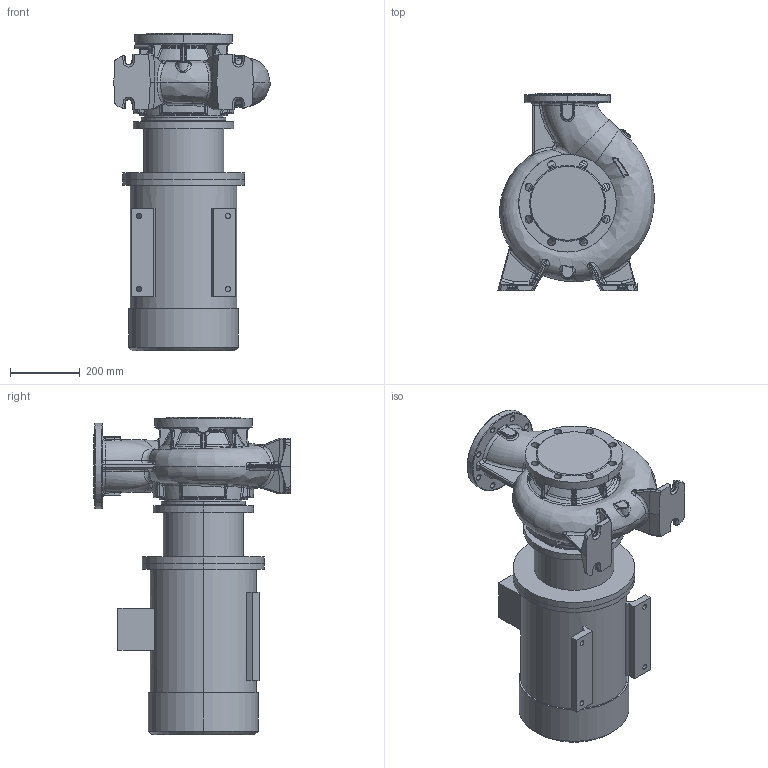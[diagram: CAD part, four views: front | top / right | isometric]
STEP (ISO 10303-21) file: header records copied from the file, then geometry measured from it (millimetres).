
FILE_DESCRIPTION (( 'STEP AP214' ), '1' );
FILE_NAME ('KRM 150-125-200-4-11.STEP', '2026-04-20T07:23:42', ( '' ), ( '' ), 'SwSTEP 2.0', 'SolidWorks 2016', '' );
FILE_SCHEMA (( 'AUTOMOTIVE_DESIGN' ));
Length unit declared in the file: millimetre
Products named in the file (1): KRM 150-125-200-4-11
Bounding box: 448.54 x 565 x 910.5 mm (x, y, z)
Volume: 74625589.2 mm3; surface area: 2186103.1 mm2
Topology: 4 solids, 4 shells, 1150 faces, 2793 edges, 1653 vertices
Faces by surface type: bspline 499, cylinder 265, plane 175, torus 93, cone 67, sphere 51
Entity records: 77583 total; most frequent: CARTESIAN_POINT 41682, ORIENTED_EDGE 5550, DIRECTION 4029, EDGE_CURVE 2775, AXIS2_PLACEMENT_3D 1739, VERTEX_POINT 1653, EDGE_LOOP 1210, UNCERTAINTY_MEASURE_WITH_UNIT 1156
